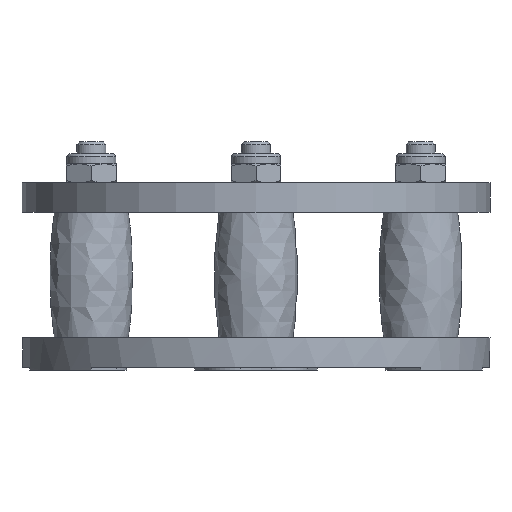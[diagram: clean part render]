
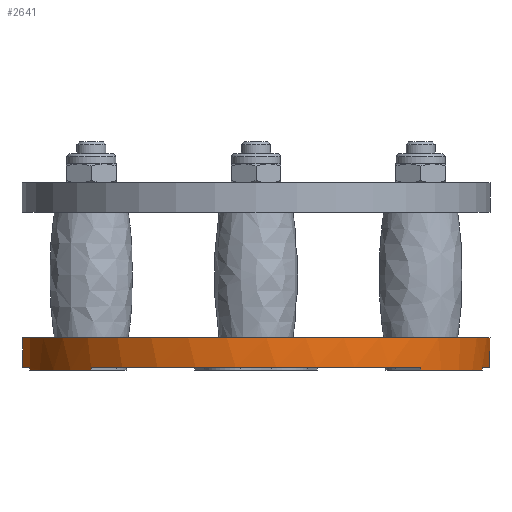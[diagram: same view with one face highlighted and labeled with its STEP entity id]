
A CAD part, front view. The second image highlights one B-rep face of the part: STEP entity #2641.
In plain terms, the highlighted cylindrical face has radius 80 mm (diameter 160 mm), a full revolution.
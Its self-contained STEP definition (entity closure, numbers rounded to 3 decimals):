
#30=CYLINDRICAL_SURFACE('',#2861,80.);
#105=LINE('',#4180,#275);
#106=LINE('',#4184,#276);
#107=LINE('',#4188,#277);
#108=LINE('',#4192,#278);
#109=LINE('',#4196,#279);
#110=LINE('',#4199,#280);
#275=VECTOR('',#3281,10.);
#276=VECTOR('',#3284,10.);
#277=VECTOR('',#3287,10.);
#278=VECTOR('',#3290,10.);
#279=VECTOR('',#3293,10.);
#280=VECTOR('',#3296,10.);
#541=FACE_BOUND('',#804,.T.);
#612=FACE_OUTER_BOUND('',#803,.T.);
#803=EDGE_LOOP('',(#1916));
#804=EDGE_LOOP('',(#1917,#1918,#1919,#1920,#1921,#1922,#1923,#1924,#1925,
#1926,#1927,#1928));
#1010=CIRCLE('',#2842,80.);
#1029=CIRCLE('',#2862,80.);
#1030=CIRCLE('',#2863,80.);
#1031=CIRCLE('',#2864,80.);
#1032=CIRCLE('',#2865,80.);
#1033=CIRCLE('',#2866,80.);
#1034=CIRCLE('',#2867,80.);
#1159=VERTEX_POINT('',#4071);
#1211=VERTEX_POINT('',#4176);
#1212=VERTEX_POINT('',#4177);
#1213=VERTEX_POINT('',#4179);
#1214=VERTEX_POINT('',#4181);
#1215=VERTEX_POINT('',#4183);
#1216=VERTEX_POINT('',#4185);
#1217=VERTEX_POINT('',#4187);
#1218=VERTEX_POINT('',#4189);
#1219=VERTEX_POINT('',#4191);
#1220=VERTEX_POINT('',#4193);
#1221=VERTEX_POINT('',#4195);
#1222=VERTEX_POINT('',#4197);
#1435=EDGE_CURVE('',#1159,#1159,#1010,.T.);
#1487=EDGE_CURVE('',#1211,#1212,#1029,.T.);
#1488=EDGE_CURVE('',#1211,#1213,#105,.T.);
#1489=EDGE_CURVE('',#1214,#1213,#1030,.T.);
#1490=EDGE_CURVE('',#1215,#1214,#106,.T.);
#1491=EDGE_CURVE('',#1216,#1215,#1031,.T.);
#1492=EDGE_CURVE('',#1216,#1217,#107,.T.);
#1493=EDGE_CURVE('',#1218,#1217,#1032,.T.);
#1494=EDGE_CURVE('',#1219,#1218,#108,.T.);
#1495=EDGE_CURVE('',#1220,#1219,#1033,.T.);
#1496=EDGE_CURVE('',#1220,#1221,#109,.T.);
#1497=EDGE_CURVE('',#1222,#1221,#1034,.T.);
#1498=EDGE_CURVE('',#1212,#1222,#110,.T.);
#1916=ORIENTED_EDGE('',*,*,#1435,.F.);
#1917=ORIENTED_EDGE('',*,*,#1487,.F.);
#1918=ORIENTED_EDGE('',*,*,#1488,.T.);
#1919=ORIENTED_EDGE('',*,*,#1489,.F.);
#1920=ORIENTED_EDGE('',*,*,#1490,.F.);
#1921=ORIENTED_EDGE('',*,*,#1491,.F.);
#1922=ORIENTED_EDGE('',*,*,#1492,.T.);
#1923=ORIENTED_EDGE('',*,*,#1493,.F.);
#1924=ORIENTED_EDGE('',*,*,#1494,.F.);
#1925=ORIENTED_EDGE('',*,*,#1495,.F.);
#1926=ORIENTED_EDGE('',*,*,#1496,.T.);
#1927=ORIENTED_EDGE('',*,*,#1497,.F.);
#1928=ORIENTED_EDGE('',*,*,#1498,.F.);
#2641=ADVANCED_FACE('',(#612,#541),#30,.T.);
#2842=AXIS2_PLACEMENT_3D('',#4072,#3206,#3207);
#2861=AXIS2_PLACEMENT_3D('',#4175,#3277,#3278);
#2862=AXIS2_PLACEMENT_3D('',#4178,#3279,#3280);
#2863=AXIS2_PLACEMENT_3D('',#4182,#3282,#3283);
#2864=AXIS2_PLACEMENT_3D('',#4186,#3285,#3286);
#2865=AXIS2_PLACEMENT_3D('',#4190,#3288,#3289);
#2866=AXIS2_PLACEMENT_3D('',#4194,#3291,#3292);
#2867=AXIS2_PLACEMENT_3D('',#4198,#3294,#3295);
#3206=DIRECTION('center_axis',(0.,0.,
1.));
#3207=DIRECTION('ref_axis',(-1.,0.,0.));
#3277=DIRECTION('center_axis',(0.,0.,
1.));
#3278=DIRECTION('ref_axis',(-1.,0.,0.));
#3279=DIRECTION('center_axis',(0.,0.,
-1.));
#3280=DIRECTION('ref_axis',(-1.,0.,0.));
#3281=DIRECTION('',(0.,0.,-1.));
#3282=DIRECTION('center_axis',(0.,0.,
-1.));
#3283=DIRECTION('ref_axis',(0.262,0.965,0.));
#3284=DIRECTION('',(0.,0.,-1.));
#3285=DIRECTION('center_axis',(0.,0.,
-1.));
#3286=DIRECTION('ref_axis',(-1.,0.,0.));
#3287=DIRECTION('',(0.,0.,-1.));
#3288=DIRECTION('center_axis',(0.,0.,
-1.));
#3289=DIRECTION('ref_axis',(-0.967,-0.256,0.));
#3290=DIRECTION('',(0.,0.,-1.));
#3291=DIRECTION('center_axis',(0.,0.,
-1.));
#3292=DIRECTION('ref_axis',(-1.,0.,0.));
#3293=DIRECTION('',(0.,0.,-1.));
#3294=DIRECTION('center_axis',(0.,0.,
-1.));
#3295=DIRECTION('ref_axis',(0.705,-0.709,0.));
#3296=DIRECTION('',(0.,0.,-1.));
#4071=CARTESIAN_POINT('',(80.,0.,10.));
#4072=CARTESIAN_POINT('Origin',(0.,0.,
10.));
#4175=CARTESIAN_POINT('Origin',(0.,0.,0.));
#4176=CARTESIAN_POINT('',(20.928,77.214,0.));
#4177=CARTESIAN_POINT('',(77.333,-20.483,0.));
#4178=CARTESIAN_POINT('Origin',(0.,0.,0.));
#4179=CARTESIAN_POINT('',(20.928,77.214,-1.));
#4180=CARTESIAN_POINT('',(20.928,77.214,0.));
#4181=CARTESIAN_POINT('',(-20.928,77.214,-1.));
#4182=CARTESIAN_POINT('Origin',(0.,0.,
-1.));
#4183=CARTESIAN_POINT('',(-20.928,77.214,0.));
#4184=CARTESIAN_POINT('',(-20.928,77.214,0.));
#4185=CARTESIAN_POINT('',(-77.333,-20.483,0.));
#4186=CARTESIAN_POINT('Origin',(0.,0.,0.));
#4187=CARTESIAN_POINT('',(-77.333,-20.483,-1.));
#4188=CARTESIAN_POINT('',(-77.333,-20.483,0.));
#4189=CARTESIAN_POINT('',(-56.406,-56.731,-1.));
#4190=CARTESIAN_POINT('Origin',(0.,0.,
-1.));
#4191=CARTESIAN_POINT('',(-56.406,-56.731,0.));
#4192=CARTESIAN_POINT('',(-56.406,-56.731,0.));
#4193=CARTESIAN_POINT('',(56.406,-56.731,0.));
#4194=CARTESIAN_POINT('Origin',(0.,0.,0.));
#4195=CARTESIAN_POINT('',(56.406,-56.731,-1.));
#4196=CARTESIAN_POINT('',(56.406,-56.731,0.));
#4197=CARTESIAN_POINT('',(77.333,-20.483,-1.));
#4198=CARTESIAN_POINT('Origin',(0.,0.,
-1.));
#4199=CARTESIAN_POINT('',(77.333,-20.483,0.));
